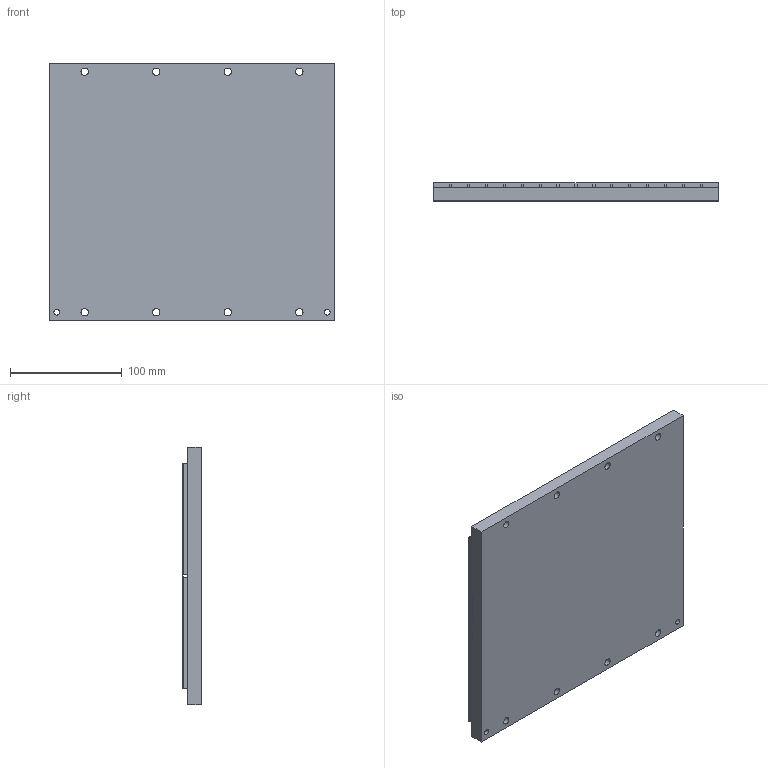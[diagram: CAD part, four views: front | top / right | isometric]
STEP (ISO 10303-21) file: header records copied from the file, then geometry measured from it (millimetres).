
FILE_DESCRIPTION((''),'2;1');
FILE_NAME('MC200-0256-WC','2007-01-14T',('saurabh.singhal'),(''),'PRO/ENGINEER BY PARAMETRIC TECHNOLOGY CORPORATION, 2005450','PRO/ENGINEER BY PARAMETRIC TECHNOLOGY CORPORATION, 2005450','');
FILE_SCHEMA(('CONFIG_CONTROL_DESIGN'));
Length unit declared in the file: millimetre
Products named in the file (1): MC200-0256-WC
Bounding box: 255.3 x 16.4 x 230 mm (x, y, z)
Volume: 891264.3 mm3; surface area: 267962 mm2
Topology: 1 solids, 1 shells, 218 faces, 528 edges, 352 vertices
Faces by surface type: plane 182, cylinder 36
Entity records: 6386 total; most frequent: CARTESIAN_POINT 1098, ORIENTED_EDGE 1056, DIRECTION 1036, EDGE_CURVE 528, VECTOR 456, LINE 456, VERTEX_POINT 352, AXIS2_PLACEMENT_3D 290
